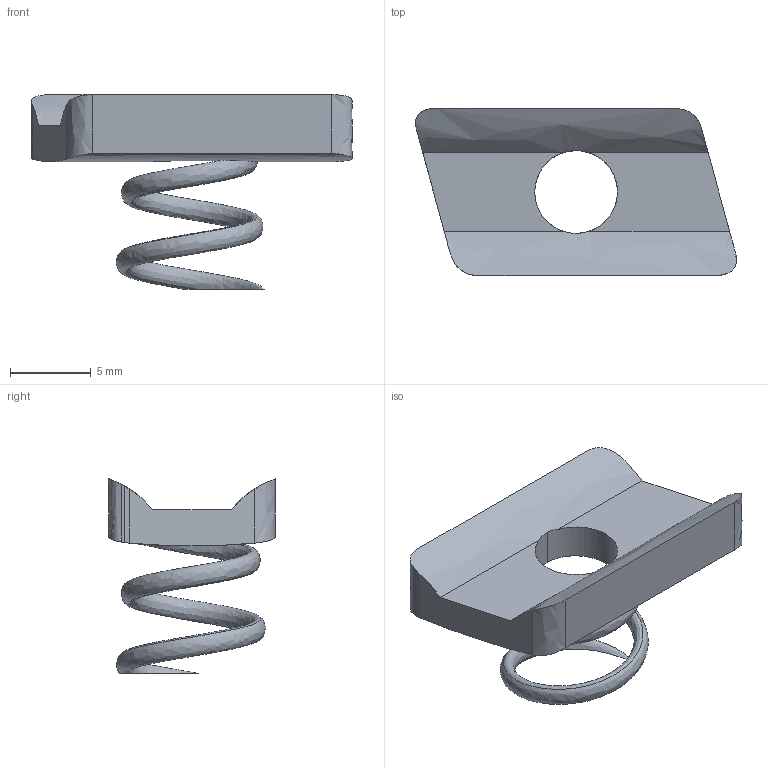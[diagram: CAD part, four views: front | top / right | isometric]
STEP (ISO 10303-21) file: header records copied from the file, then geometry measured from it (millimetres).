
FILE_DESCRIPTION(('TurboCAD Mac Pro'),'Build 980');
FILE_NAME('P7006-1032.stp',' ',(''),(''),'ACIS Interop','IMSI','TurboCAD Mac Pro BY IMSI, INCORPORATED');
FILE_SCHEMA(('automotive_design'));
Length unit declared in the file: inch
Products named in the file (1): 1
Bounding box: 19.82 x 10.31 x 12.02 mm (x, y, z)
Volume: 485.3 mm3; surface area: 718 mm2
Topology: 1 solids, 1 shells, 28 faces, 81 edges, 53 vertices
Faces by surface type: bspline 15, plane 13
Entity records: 3121 total; most frequent: CARTESIAN_POINT 2272, ORIENTED_EDGE 162, EDGE_CURVE 81, DIRECTION 61, VERTEX_POINT 53, B_SPLINE_CURVE_WITH_KNOTS 48, LINE 33, VECTOR 33
